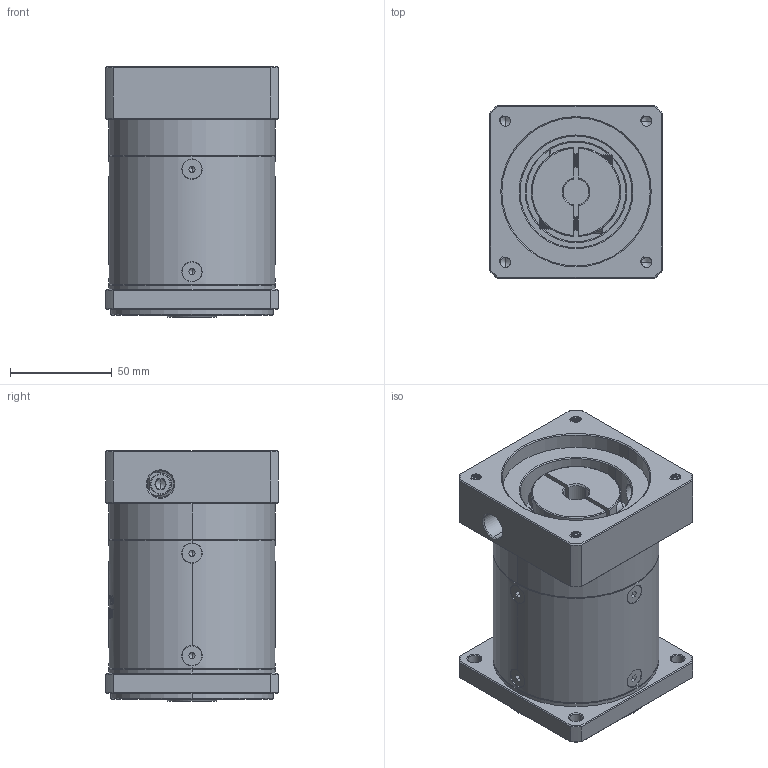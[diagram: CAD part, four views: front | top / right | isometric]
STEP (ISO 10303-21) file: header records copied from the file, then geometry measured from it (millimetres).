
FILE_DESCRIPTION (( 'STEP AP214' ), '1' );
FILE_NAME ('ZF080-K15-L2-P2-12.7-73-69.6X69.6-M6.step', '2023-08-19T05:35:21', ( '' ), ( '' ), 'SwSTEP 2.0', 'SolidWorks 2016', '' );
FILE_SCHEMA (( 'AUTOMOTIVE_DESIGN' ));
Length unit declared in the file: millimetre
Products named in the file (1): ZF080-K15-L2-P2-12.7-73-69.6X69.6-M6
Bounding box: 85 x 85 x 123.5 mm (x, y, z)
Volume: 630307.2 mm3; surface area: 92980.5 mm2
Topology: 13 solids, 13 shells, 2209 faces, 5799 edges, 3688 vertices
Faces by surface type: plane 1066, bspline 390, cylinder 384, cone 334, torus 35
Entity records: 117354 total; most frequent: CARTESIAN_POINT 43616, ORIENTED_EDGE 11542, DIRECTION 8540, EDGE_CURVE 5771, VERTEX_POINT 3688, LINE 3078, VECTOR 3078, AXIS2_PLACEMENT_3D 2731
